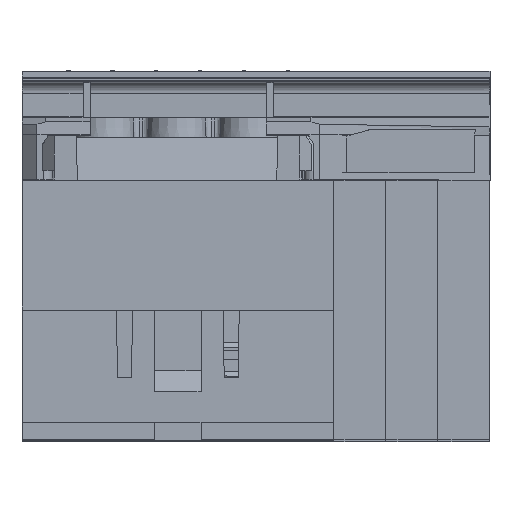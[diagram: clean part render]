
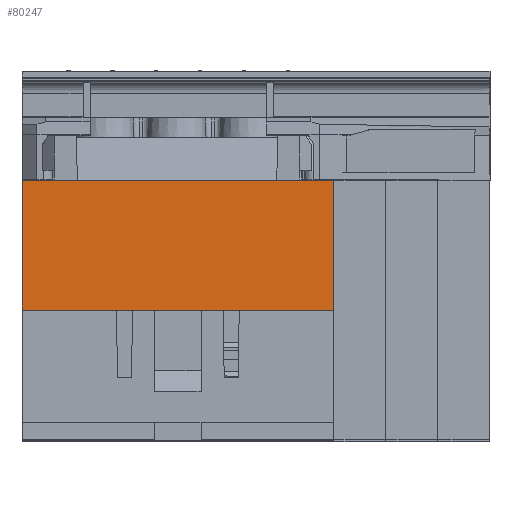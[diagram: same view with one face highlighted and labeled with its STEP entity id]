
A CAD part, top view. The second image highlights one B-rep face of the part: STEP entity #80247.
In plain terms, the highlighted planar face has unit normal (0, 0, 1).
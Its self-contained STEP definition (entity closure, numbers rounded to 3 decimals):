
#10250 = EDGE_CURVE ( 'NONE', #80944, #101769, #114575, .T. ) ;
#13237 = CARTESIAN_POINT ( 'NONE',  ( 27., 18.5, 200.2 ) ) ;
#13766 = ORIENTED_EDGE ( 'NONE', *, *, #35649, .T. ) ;
#14666 = DIRECTION ( 'NONE',  ( 0., 1., 0. ) ) ;
#20438 = EDGE_LOOP ( 'NONE', ( #138024, #13766, #37519, #141833 ) ) ;
#24962 = DIRECTION ( 'NONE',  ( -1., 0., 0. ) ) ;
#35649 = EDGE_CURVE ( 'NONE', #86385, #133209, #96622, .T. ) ;
#37519 = ORIENTED_EDGE ( 'NONE', *, *, #127104, .F. ) ;
#37706 = DIRECTION ( 'NONE',  ( 0., 0., 1. ) ) ;
#43469 = DIRECTION ( 'NONE',  ( 0., -1., 0. ) ) ;
#52106 = PLANE ( 'NONE',  #97331 ) ;
#55350 = LINE ( 'NONE', #105376, #154569 ) ;
#59948 = CARTESIAN_POINT ( 'NONE',  ( -27., 18.5, 200.2 ) ) ;
#64963 = VECTOR ( 'NONE', #130659, 1000. ) ;
#70192 = CARTESIAN_POINT ( 'NONE',  ( -27., -4., 200.2 ) ) ;
#80247 = ADVANCED_FACE ( 'NONE', ( #110968 ), #52106, .T. ) ;
#80944 = VERTEX_POINT ( 'NONE', #90305 ) ;
#86385 = VERTEX_POINT ( 'NONE', #138994 ) ;
#90305 = CARTESIAN_POINT ( 'NONE',  ( 27., -4., 200.2 ) ) ;
#96622 = LINE ( 'NONE', #13237, #111950 ) ;
#97331 = AXIS2_PLACEMENT_3D ( 'NONE', #137417, #37706, #127269 ) ;
#101769 = VERTEX_POINT ( 'NONE', #70192 ) ;
#105376 = CARTESIAN_POINT ( 'NONE',  ( 27., 18.5, 200.2 ) ) ;
#106047 = LINE ( 'NONE', #123980, #153786 ) ;
#107961 = EDGE_CURVE ( 'NONE', #86385, #80944, #55350, .T. ) ;
#110968 = FACE_OUTER_BOUND ( 'NONE', #20438, .T. ) ;
#111950 = VECTOR ( 'NONE', #24962, 1000. ) ;
#114575 = LINE ( 'NONE', #141884, #64963 ) ;
#123980 = CARTESIAN_POINT ( 'NONE',  ( -27., 18.5, 200.2 ) ) ;
#127104 = EDGE_CURVE ( 'NONE', #101769, #133209, #106047, .T. ) ;
#127269 = DIRECTION ( 'NONE',  ( 1., 0., 0. ) ) ;
#130659 = DIRECTION ( 'NONE',  ( -1., 0., 0. ) ) ;
#133209 = VERTEX_POINT ( 'NONE', #59948 ) ;
#137417 = CARTESIAN_POINT ( 'NONE',  ( 195.707, 18.5, 200.2 ) ) ;
#138024 = ORIENTED_EDGE ( 'NONE', *, *, #107961, .F. ) ;
#138994 = CARTESIAN_POINT ( 'NONE',  ( 27., 18.5, 200.2 ) ) ;
#141833 = ORIENTED_EDGE ( 'NONE', *, *, #10250, .F. ) ;
#141884 = CARTESIAN_POINT ( 'NONE',  ( 195.707, -4., 200.2 ) ) ;
#153786 = VECTOR ( 'NONE', #14666, 1000. ) ;
#154569 = VECTOR ( 'NONE', #43469, 1000. ) ;
